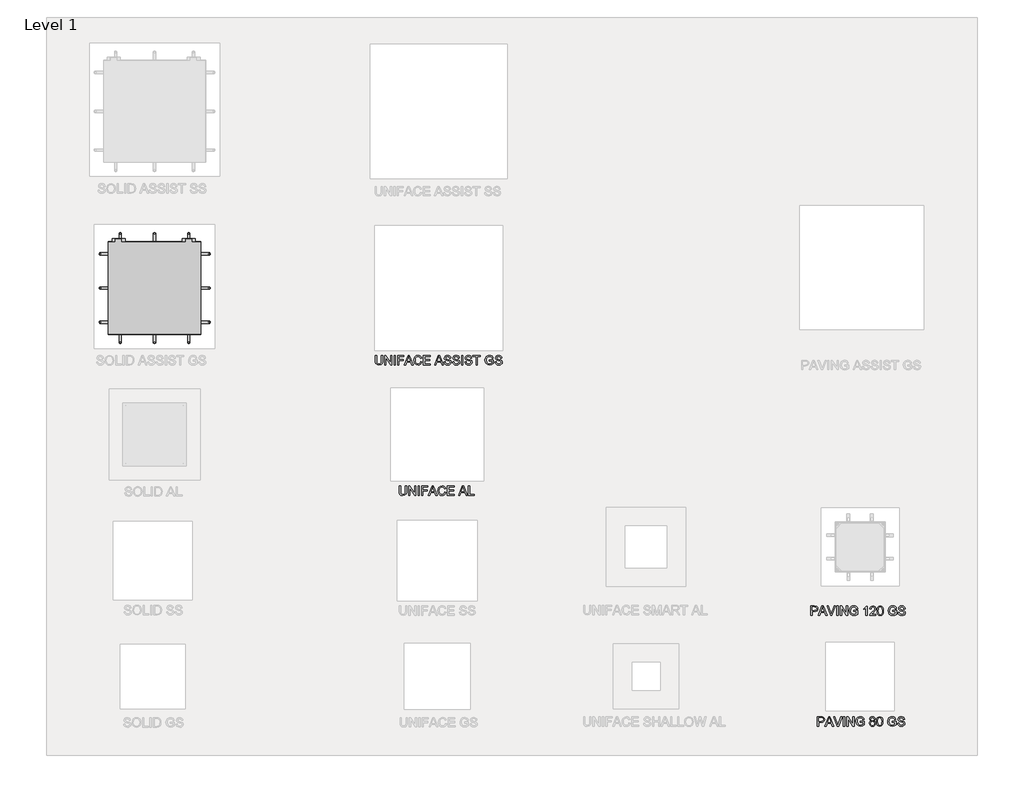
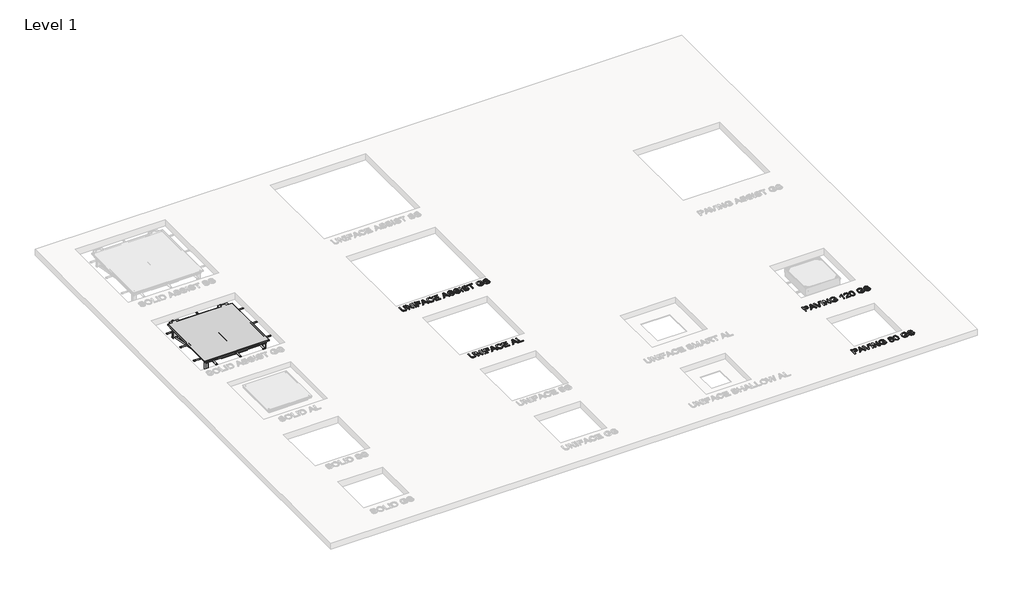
# One storey, part 3 of 4: 5 proxies.
"""IFC4 building model written with IfcOpenShell, lengths in millimetres."""

from ifc_helpers import new_model, si_unit, origin, origin_with_axes, place, context, project, spatial, polyline, outline, extrude, transform, mapped, element, save
from components import aco_access_cover_solid_assist_gs_aco_access_cover_solid_656c4046, aco_access_cover_solid_assist_gs_aco_access_cover_solid_a4386469

model = new_model("IFC4")

# Units and contexts
model_context = context("Model", 3, world=origin())
ifc_project = project(units=[si_unit("LENGTHUNIT", "METRE", prefix="MILLI")], contexts=[model_context])

# Site, building, storey
site = spatial("IfcSite", under=ifc_project)
building = spatial("IfcBuilding", under=site)
storey = spatial("IfcBuildingStorey", under=building, Name="Level 1", Elevation=0.0)

# Proxies
placement = place(None, origin())
element("IfcBuildingElementProxy", 1, Name="100mm ACO", ObjectType="100mm ACO", at=placement, inside=storey, context=model_context, shape_type="SweptSolid", body=[
    extrude(outline(polyline([(9018.2423209, -5172.6420187), (9055.8001913, -5172.6420187), (9071.1069043, -5173.5245419), (9083.0282006, -5178.1107687), (9091.3470663, -5188.1657456), (9094.1682469, -5201.4614632), (9091.9438545, -5213.8927421), (9085.2706774, -5223.5824122), (9073.6929864, -5229.8215615), (9056.7550524, -5231.901278), (9031.2052839, -5231.901278), (9031.2052839, -5272.6420187), (9018.2423209, -5272.6420187), (9018.2423209, -5172.6420187)]), holes=[polyline([(9031.2052839, -5220.7901669), (9057.2758857, -5220.7901669), (9075.2229344, -5216.0520303), (9079.7096965, -5210.1293596), (9081.2052839, -5201.8376206), (9078.0947515, -5190.8567178), (9070.4558626, -5184.9250048), (9056.9865339, -5183.7531298), (9031.2052839, -5183.7531298), (9031.2052839, -5220.7901669)])]), origin_with_axes(), (0.0, 0.0, 1.0), 10.0),
    extrude(outline(polyline([(9192.779358, -5272.6420187), (9178.9772746, -5272.6420187), (9166.998108, -5243.0123891), (9124.5501913, -5243.0123891), (9113.0339876, -5272.6420187), (9099.2608394, -5272.6420187), (9138.1207932, -5172.6420187), (9152.2990339, -5172.6420187), (9192.779358, -5272.6420187)]), holes=[polyline([(9162.4842191, -5231.901278), (9148.0600293, -5195.2403983), (9145.0941728, -5183.5795187), (9140.435608, -5202.1559076), (9128.8904691, -5231.901278), (9162.4842191, -5231.901278)])]), origin_with_axes(), (0.0, 0.0, 1.0), 10.0),
    extrude(outline(polyline([(9283.0571357, -5172.6420187), (9245.5571357, -5272.6420187), (9229.816395, -5272.6420187), (9192.316395, -5172.6420187), (9206.060608, -5172.6420187), (9232.4205617, -5245.3272039), (9237.6867654, -5261.6466483), (9242.9819043, -5245.3272039), (9269.3129228, -5172.6420187), (9283.0571357, -5172.6420187)])), origin_with_axes(), (0.0, 0.0, 1.0), 10.0),
    extrude(outline(polyline([(9310.8349135, -5272.6420187), (9297.8719506, -5272.6420187), (9297.8719506, -5172.6420187), (9310.8349135, -5172.6420187), (9310.8349135, -5272.6420187)])), origin_with_axes(), (0.0, 0.0, 1.0), 10.0),
    extrude(outline(polyline([(9412.6867654, -5272.6420187), (9398.7978765, -5272.6420187), (9348.1323672, -5194.401278), (9348.1323672, -5272.6420187), (9334.9089876, -5272.6420187), (9334.9089876, -5172.6420187), (9348.8268117, -5172.6420187), (9399.4633857, -5250.8248891), (9399.4633857, -5172.6420187), (9412.6867654, -5172.6420187), (9412.6867654, -5272.6420187)])), origin_with_axes(), (0.0, 0.0, 1.0), 10.0),
    extrude(outline(polyline([(9521.9460246, -5259.3028983), (9502.5377492, -5270.6961275), (9481.4078302, -5274.4938706), (9461.0266091, -5270.9782456), (9445.0218348, -5260.4313706), (9434.6594216, -5244.0540558), (9431.2052839, -5223.0471113), (9436.8331774, -5196.5424817), (9443.7957063, -5185.6556183), (9453.4275061, -5177.532065), (9465.6164529, -5172.4756414), (9480.2504228, -5170.7901669), (9495.086939, -5172.6637201), (9506.6682469, -5178.2843798), (9515.0015802, -5187.6449122), (9520.0941728, -5200.7380835), (9507.1312098, -5204.1235002), (9503.3732526, -5194.4193625), (9497.4813256, -5187.4713011), (9489.4554286, -5183.2937838), (9479.2955617, -5181.901278), (9464.0358684, -5184.7079909), (9453.0368811, -5193.1281298), (9446.3854054, -5206.0910928), (9444.1682469, -5222.526278), (9448.5519274, -5245.1391252), (9461.5582932, -5258.7675974), (9480.3082932, -5263.3827595), (9495.1737445, -5260.5760465), (9508.9830617, -5252.1559076), (9508.9830617, -5231.901278), (9479.353432, -5231.901278), (9479.353432, -5220.7901669), (9521.9460246, -5220.7901669), (9521.9460246, -5259.3028983)])), origin_with_axes(), (0.0, 0.0, 1.0), 10.0),
    extrude(outline(polyline([(9623.566395, -5217.7375048), (9637.628895, -5227.4090905), (9642.316395, -5243.8225743), (9639.9834957, -5255.8306761), (9632.9847978, -5265.6975743), (9622.3257989, -5272.2947965), (9609.0119969, -5274.4938706), (9595.6005385, -5272.2803289), (9584.9379228, -5265.6397039), (9577.9717769, -5255.657065), (9575.6497283, -5243.4174817), (9580.8291265, -5226.5916715), (9586.9055154, -5220.8154851), (9594.7758857, -5217.8677132), (9583.2090455, -5210.4096692), (9579.353432, -5197.844565), (9581.3861288, -5187.9668162), (9587.4842191, -5179.8613474), (9596.8736867, -5174.4468509), (9608.7805154, -5172.6420187), (9620.8645721, -5174.5047213), (9630.3806311, -5180.0928289), (9636.5546763, -5188.3212722), (9638.6126913, -5198.1049817), (9634.8511172, -5210.1709539), (9623.566395, -5217.7375048)]), holes=[polyline([(9609.040932, -5265.2346113), (9617.0053418, -5263.7661507), (9623.5374598, -5259.3607687), (9627.899439, -5252.604403), (9629.353432, -5244.0829909), (9627.8596531, -5235.5254099), (9623.3783163, -5228.6605372), (9616.7413082, -5224.1466483), (9608.7805154, -5222.6420187), (9600.6533452, -5224.193668), (9594.2116496, -5228.8486159), (9588.6126913, -5243.7936391), (9590.0558337, -5252.1703752), (9594.3852607, -5259.0714169), (9600.9354633, -5263.6938127), (9609.040932, -5265.2346113)]), polyline([(9609.0119969, -5213.3827595), (9620.8609552, -5208.9846113), (9625.6497283, -5197.9603058), (9620.7886172, -5186.5453752), (9608.8673209, -5181.901278), (9597.003895, -5186.4730372), (9592.316395, -5197.2658613), (9597.1341033, -5209.0424817), (9609.0119969, -5213.3827595)])]), origin_with_axes(), (0.0, 0.0, 1.0), 10.0),
    extrude(outline(polyline([(9686.7319043, -5172.6420187), (9701.3278967, -5175.828506), (9711.7536057, -5185.3879678), (9718.009031, -5201.3204041), (9720.0941728, -5223.625815), (9717.9385015, -5246.0976032), (9711.4714876, -5261.9504678), (9700.9752492, -5271.3580199), (9686.7319043, -5274.4938706), (9672.1612301, -5271.3146171), (9661.7536057, -5261.7768567), (9655.509031, -5245.8805893), (9653.4275061, -5223.625815), (9655.5831774, -5201.1576437), (9662.0501913, -5185.2577595), (9672.5319621, -5175.7959539), (9686.7319043, -5172.6420187)]), holes=[polyline([(9686.7608394, -5265.2346113), (9695.6005385, -5262.8004389), (9701.9807469, -5255.4979215), (9705.8435941, -5242.66155), (9707.1312098, -5223.625815), (9704.8742654, -5199.407065), (9698.0600293, -5186.2415558), (9686.6161635, -5181.901278), (9677.7945489, -5184.3788532), (9671.4685941, -5191.8115789), (9667.6600003, -5204.7202884), (9666.3904691, -5223.625815), (9668.6908163, -5247.6854215), (9675.5050524, -5260.8943335), (9686.7608394, -5265.2346113)])]), origin_with_axes(), (0.0, 0.0, 1.0), 10.0),
    extrude(outline(polyline([(9862.6867654, -5259.3028983), (9843.2784899, -5270.6961275), (9822.1485709, -5274.4938706), (9801.7673499, -5270.9782456), (9785.7625756, -5260.4313706), (9775.4001624, -5244.0540558), (9771.9460246, -5223.0471113), (9777.5739182, -5196.5424817), (9784.5364471, -5185.6556183), (9794.1682469, -5177.532065), (9806.3571936, -5172.4756414), (9820.9911635, -5170.7901669), (9835.8276797, -5172.6637201), (9847.4089876, -5178.2843798), (9855.7423209, -5187.6449122), (9860.8349135, -5200.7380835), (9847.8719506, -5204.1235002), (9844.1139934, -5194.4193625), (9838.2220663, -5187.4713011), (9830.1961693, -5183.2937838), (9820.0363024, -5181.901278), (9804.7766091, -5184.7079909), (9793.7776219, -5193.1281298), (9787.1261462, -5206.0910928), (9784.9089876, -5222.526278), (9789.2926682, -5245.1391252), (9802.2990339, -5258.7675974), (9821.0490339, -5263.3827595), (9835.9144853, -5260.5760465), (9849.7238024, -5252.1559076), (9849.7238024, -5231.901278), (9820.0941728, -5231.901278), (9820.0941728, -5220.7901669), (9862.6867654, -5220.7901669), (9862.6867654, -5259.3028983)])), origin_with_axes(), (0.0, 0.0, 1.0), 10.0),
    extrude(outline(polyline([(9940.4645432, -5202.2716483), (9938.4535478, -5193.3776958), (9933.9830617, -5187.0083382), (9917.6636172, -5181.901278), (9902.0386172, -5185.8798659), (9897.5247283, -5190.7662953), (9896.0200987, -5197.4684076), (9900.4905848, -5207.5233845), (9918.6763487, -5213.8167872), (9938.5114182, -5219.3000048), (9951.6624598, -5228.2265095), (9955.7640223, -5235.308396), (9957.1312098, -5244.4591483), (9954.6246994, -5256.297256), (9947.1051682, -5265.9435233), (9935.5564124, -5272.3562838), (9920.9622283, -5274.4938706), (9902.9790107, -5272.1211854), (9890.1751913, -5265.0031298), (9882.3626913, -5254.1090326), (9879.353432, -5240.4082224), (9892.316395, -5239.3086854), (9894.94588, -5250.1846981), (9901.1560941, -5257.6391252), (9909.9921763, -5261.9468509), (9920.4992654, -5263.3827595), (9937.628895, -5258.6518567), (9942.5334089, -5253.0782166), (9944.1682469, -5245.819102), (9942.4791554, -5238.4912664), (9937.4118811, -5233.463778), (9914.1335246, -5226.0129678), (9899.9227318, -5221.67269), (9890.3343348, -5215.7988474), (9884.8764355, -5208.1708092), (9883.0571357, -5198.5679446), (9885.3393985, -5187.5725743), (9892.1861867, -5178.6605372), (9902.96816, -5172.7577595), (9917.0559783, -5170.7901669), (9931.6176103, -5172.772227), (9943.0108394, -5178.7184076), (9950.51952, -5188.3104215), (9953.4275061, -5201.2299817), (9940.4645432, -5202.2716483)])), origin_with_axes(), (0.0, 0.0, 1.0), 10.0),
])
element("IfcBuildingElementProxy", 2, Name="100mm ACO", ObjectType="100mm ACO", at=placement, inside=storey, context=model_context, shape_type="SweptSolid", body=[
    extrude(outline(polyline([(8946.8484978, -3982.3905404), (8984.4063682, -3982.3905404), (8999.7130811, -3983.2730636), (9011.6343774, -3987.8592904), (9019.9532432, -3997.9142673), (9022.7744237, -4011.2099849), (9020.5500314, -4023.6412638), (9013.8768543, -4033.3309339), (9002.2991633, -4039.5700832), (8985.3612293, -4041.6497997), (8959.8114608, -4041.6497997), (8959.8114608, -4082.3905404), (8946.8484978, -4082.3905404), (8946.8484978, -3982.3905404)]), holes=[polyline([(8959.8114608, -4030.5386886), (8985.8820626, -4030.5386886), (9003.8291112, -4025.800552), (9008.3158734, -4019.8778813), (9009.8114608, -4011.5861423), (9006.7009284, -4000.6052395), (8999.0620395, -3994.6735265), (8985.5927108, -3993.5016515), (8959.8114608, -3993.5016515), (8959.8114608, -4030.5386886)])]), origin_with_axes(), (0.0, 0.0, 1.0), 10.0),
    extrude(outline(polyline([(9121.3855348, -4082.3905404), (9107.5834515, -4082.3905404), (9095.6042848, -4052.7609108), (9053.1563682, -4052.7609108), (9041.6401645, -4082.3905404), (9027.8670163, -4082.3905404), (9066.72697, -3982.3905404), (9080.9052108, -3982.3905404), (9121.3855348, -4082.3905404)]), holes=[polyline([(9091.090396, -4041.6497997), (9076.6662061, -4004.98892), (9073.7003497, -3993.3280404), (9069.0417848, -4011.9044293), (9057.496646, -4041.6497997), (9091.090396, -4041.6497997)])]), origin_with_axes(), (0.0, 0.0, 1.0), 10.0),
    extrude(outline(polyline([(9211.6633126, -3982.3905404), (9174.1633126, -4082.3905404), (9158.4225719, -4082.3905404), (9120.9225719, -3982.3905404), (9134.6667848, -3982.3905404), (9161.0267385, -4055.0757256), (9166.2929423, -4071.39517), (9171.5880811, -4055.0757256), (9197.9190997, -3982.3905404), (9211.6633126, -3982.3905404)])), origin_with_axes(), (0.0, 0.0, 1.0), 10.0),
    extrude(outline(polyline([(9239.4410904, -4082.3905404), (9226.4781274, -4082.3905404), (9226.4781274, -3982.3905404), (9239.4410904, -3982.3905404), (9239.4410904, -4082.3905404)])), origin_with_axes(), (0.0, 0.0, 1.0), 10.0),
    extrude(outline(polyline([(9341.2929423, -4082.3905404), (9327.4040534, -4082.3905404), (9276.7385441, -4004.1497997), (9276.7385441, -4082.3905404), (9263.5151645, -4082.3905404), (9263.5151645, -3982.3905404), (9277.4329885, -3982.3905404), (9328.0695626, -4060.5734108), (9328.0695626, -3982.3905404), (9341.2929423, -3982.3905404), (9341.2929423, -4082.3905404)])), origin_with_axes(), (0.0, 0.0, 1.0), 10.0),
    extrude(outline(polyline([(9450.5522015, -4069.05142), (9431.143926, -4080.4446492), (9410.0140071, -4084.2423923), (9389.632786, -4080.7267673), (9373.6280117, -4070.1798923), (9363.2655985, -4053.8025774), (9359.8114608, -4032.795633), (9365.4393543, -4006.2910034), (9372.4018832, -3995.4041399), (9382.033683, -3987.2805867), (9394.2226298, -3982.2241631), (9408.8565997, -3980.5386886), (9423.6931159, -3982.4122418), (9435.2744237, -3988.0329015), (9443.6077571, -3997.3934339), (9448.7003497, -4010.4866052), (9435.7373867, -4013.8720219), (9431.9794295, -4004.1678842), (9426.0875024, -3997.2198228), (9418.0616054, -3993.0423055), (9407.9017385, -3991.6497997), (9392.6420453, -3994.4565126), (9381.643058, -4002.8766515), (9374.9915823, -4015.8396145), (9372.7744237, -4032.2747997), (9377.1581043, -4054.8876469), (9390.16447, -4068.5161191), (9408.91447, -4073.1312812), (9423.7799214, -4070.3245682), (9437.5892385, -4061.9044293), (9437.5892385, -4041.6497997), (9407.9596089, -4041.6497997), (9407.9596089, -4030.5386886), (9450.5522015, -4030.5386886), (9450.5522015, -4069.05142)])), origin_with_axes(), (0.0, 0.0, 1.0), 10.0),
    extrude(outline(polyline([(9552.4040534, -4082.3905404), (9539.4410904, -4082.3905404), (9539.4410904, -4004.6127626), (9515.3670163, -4019.4275774), (9515.3670163, -4010.1683182), (9533.6395858, -3998.4495682), (9544.996646, -3984.2423923), (9552.4040534, -3984.2423923), (9552.4040534, -4082.3905404)])), origin_with_axes(), (0.0, 0.0, 1.0), 10.0),
    extrude(outline(polyline([(9646.8484978, -4082.3905404), (9580.1818311, -4082.3905404), (9586.1424793, -4066.7944756), (9608.1621552, -4045.1798923), (9625.9283589, -4027.8477163), (9631.8962409, -4018.8199386), (9633.8855348, -4009.7342904), (9628.4601876, -3996.7713274), (9614.7593774, -3991.6497997), (9600.7258126, -3996.7568599), (9596.4578728, -4003.1262175), (9594.996646, -4012.02017), (9582.033683, -4010.6312812), (9585.1731506, -3998.5291399), (9592.2188682, -3989.6532719), (9602.4329885, -3984.2062233), (9615.0776645, -3982.3905404), (9628.4348693, -3984.4774906), (9638.4717617, -3990.7383413), (9644.7543138, -3999.9505809), (9646.8484978, -4010.8916978), (9645.0979191, -4020.7947649), (9639.846183, -4030.8280404), (9612.4156274, -4058.3454015), (9596.8484978, -4073.1312812), (9646.8484978, -4073.1312812), (9646.8484978, -4082.3905404)])), origin_with_axes(), (0.0, 0.0, 1.0), 10.0),
    extrude(outline(polyline([(9693.1158589, -3982.3905404), (9707.7118514, -3985.5770277), (9718.1375603, -3995.1364895), (9724.3929857, -4011.0689258), (9726.4781274, -4033.3743367), (9724.3224561, -4055.8461249), (9717.8554423, -4071.6989895), (9707.3592038, -4081.1065416), (9693.1158589, -4084.2423923), (9678.5451847, -4081.0631388), (9668.1375603, -4071.5253784), (9661.8929857, -4055.629111), (9659.8114608, -4033.3743367), (9661.9671321, -4010.9061654), (9668.434146, -3995.0062812), (9678.9159168, -3985.5444756), (9693.1158589, -3982.3905404)]), holes=[polyline([(9693.1447941, -4074.983133), (9701.9844932, -4072.5489606), (9708.3647015, -4065.2464432), (9712.2275487, -4052.4100717), (9713.5151645, -4033.3743367), (9711.25822, -4009.1555867), (9704.4439839, -3995.9900774), (9693.0001182, -3991.6497997), (9684.1785036, -3994.1273749), (9677.8525487, -4001.5601006), (9674.043955, -4014.4688101), (9672.7744237, -4033.3743367), (9675.074771, -4057.4339432), (9681.8890071, -4070.6428552), (9693.1447941, -4074.983133)])]), origin_with_axes(), (0.0, 0.0, 1.0), 10.0),
    extrude(outline(polyline([(9869.07072, -4069.05142), (9849.6624446, -4080.4446492), (9828.5325256, -4084.2423923), (9808.1513045, -4080.7267673), (9792.1465302, -4070.1798923), (9781.784117, -4053.8025774), (9778.3299793, -4032.795633), (9783.9578728, -4006.2910034), (9790.9204017, -3995.4041399), (9800.5522015, -3987.2805867), (9812.7411483, -3982.2241631), (9827.3751182, -3980.5386886), (9842.2116344, -3982.4122418), (9853.7929423, -3988.0329015), (9862.1262756, -3997.3934339), (9867.2188682, -4010.4866052), (9854.2559052, -4013.8720219), (9850.497948, -4004.1678842), (9844.606021, -3997.2198228), (9836.580124, -3993.0423055), (9826.4202571, -3991.6497997), (9811.1605638, -3994.4565126), (9800.1615765, -4002.8766515), (9793.5101008, -4015.8396145), (9791.2929423, -4032.2747997), (9795.6766228, -4054.8876469), (9808.6829885, -4068.5161191), (9827.4329885, -4073.1312812), (9842.2984399, -4070.3245682), (9856.1077571, -4061.9044293), (9856.1077571, -4041.6497997), (9826.4781274, -4041.6497997), (9826.4781274, -4030.5386886), (9869.07072, -4030.5386886), (9869.07072, -4069.05142)])), origin_with_axes(), (0.0, 0.0, 1.0), 10.0),
    extrude(outline(polyline([(9946.8484978, -4012.02017), (9944.8375024, -4003.1262175), (9940.3670163, -3996.7568599), (9924.0475719, -3991.6497997), (9908.4225719, -3995.6283876), (9903.908683, -4000.514817), (9902.4040534, -4007.2169293), (9906.8745395, -4017.2719062), (9925.0603034, -4023.5653089), (9944.8953728, -4029.0485265), (9958.0464145, -4037.9750312), (9962.147977, -4045.0569177), (9963.5151645, -4054.20767), (9961.0086541, -4066.0457777), (9953.4891228, -4075.692045), (9941.940367, -4082.1048055), (9927.346183, -4084.2423923), (9909.3629654, -4081.8697071), (9896.559146, -4074.7516515), (9888.746646, -4063.8575543), (9885.7373867, -4050.1567441), (9898.7003497, -4049.0572071), (9901.3298346, -4059.9332198), (9907.5400487, -4067.3876469), (9916.3761309, -4071.6953726), (9926.88322, -4073.1312812), (9944.0128497, -4068.4003784), (9948.9173635, -4062.8267383), (9950.5522015, -4055.5676237), (9948.8631101, -4048.2397881), (9943.7958358, -4043.2122997), (9920.5174793, -4035.7614895), (9906.3066865, -4031.4212117), (9896.7182895, -4025.5473691), (9891.2603902, -4017.9193309), (9889.4410904, -4008.3164663), (9891.7233531, -3997.321096), (9898.5701413, -3988.4090589), (9909.3521147, -3982.5062812), (9923.439933, -3980.5386886), (9938.0015649, -3982.5207487), (9949.3947941, -3988.4669293), (9956.9034747, -3998.0589432), (9959.8114608, -4010.9785034), (9946.8484978, -4012.02017)])), origin_with_axes(), (0.0, 0.0, 1.0), 10.0),
])
element("IfcBuildingElementProxy", 3, Name="100mm ACO", ObjectType="100mm ACO", at=placement, inside=storey, context=model_context, shape_type="SweptSolid", body=[
    extrude(outline(polyline([(4604.5776008, -2751.0358464), (4603.7384804, -2765.3153603), (4599.2824619, -2778.7991566), (4587.5347767, -2790.3442955), (4565.862323, -2794.9594575), (4544.5370915, -2790.8651288), (4532.659198, -2780.274851), (4527.8414896, -2766.747652), (4526.799823, -2751.0358464), (4526.799823, -2693.1076057), (4539.7627859, -2693.1076057), (4539.7627859, -2751.3830686), (4541.0504017, -2767.0514714), (4547.8357026, -2778.7412862), (4554.8307836, -2782.5715814), (4564.8206563, -2783.8483464), (4582.2541054, -2779.7829529), (4589.8495915, -2768.9177909), (4591.6146378, -2751.3830686), (4591.6146378, -2693.1076057), (4604.5776008, -2693.1076057), (4604.5776008, -2751.0358464)])), origin_with_axes(), (0.0, 0.0, 1.0), 10.0),
    extrude(outline(polyline([(4704.5776008, -2793.1076057), (4690.6887119, -2793.1076057), (4640.0232026, -2714.8668649), (4640.0232026, -2793.1076057), (4626.799823, -2793.1076057), (4626.799823, -2693.1076057), (4640.7176471, -2693.1076057), (4691.3542211, -2771.290476), (4691.3542211, -2693.1076057), (4704.5776008, -2693.1076057), (4704.5776008, -2793.1076057)])), origin_with_axes(), (0.0, 0.0, 1.0), 10.0),
    extrude(outline(polyline([(4741.6146378, -2793.1076057), (4728.6516748, -2793.1076057), (4728.6516748, -2693.1076057), (4741.6146378, -2693.1076057), (4741.6146378, -2793.1076057)])), origin_with_axes(), (0.0, 0.0, 1.0), 10.0),
    extrude(outline(polyline([(4832.3553785, -2704.2187168), (4778.6516748, -2704.2187168), (4778.6516748, -2735.7001983), (4824.9479711, -2735.7001983), (4824.9479711, -2746.8113094), (4778.6516748, -2746.8113094), (4778.6516748, -2793.1076057), (4765.6887119, -2793.1076057), (4765.6887119, -2693.1076057), (4832.3553785, -2693.1076057), (4832.3553785, -2704.2187168)])), origin_with_axes(), (0.0, 0.0, 1.0), 10.0),
    extrude(outline(polyline([(4932.8183415, -2793.1076057), (4919.0162582, -2793.1076057), (4907.0370915, -2763.477976), (4864.5891748, -2763.477976), (4853.0729711, -2793.1076057), (4839.299823, -2793.1076057), (4878.1597767, -2693.1076057), (4892.3380174, -2693.1076057), (4932.8183415, -2793.1076057)]), holes=[polyline([(4902.5232026, -2752.3668649), (4888.0990128, -2715.7059853), (4885.1331563, -2704.0451057), (4880.4745915, -2722.6214946), (4868.9294526, -2752.3668649), (4902.5232026, -2752.3668649)])]), origin_with_axes(), (0.0, 0.0, 1.0), 10.0),
    extrude(outline(polyline([(5026.799823, -2761.278902), (5020.8861945, -2776.1045675), (5011.7679943, -2786.6116566), (4999.9805232, -2792.8725073), (4986.0590822, -2794.9594575), (4965.1534109, -2791.1038441), (4950.8160267, -2779.5370038), (4942.5260961, -2762.5448163), (4939.7627859, -2742.4131612), (4943.0071436, -2721.0264425), (4952.7402165, -2704.8408233), (4967.5731158, -2694.6520212), (4986.1169526, -2691.2557538), (4999.4307547, -2693.0678198), (5010.6684572, -2698.5040177), (5019.3381621, -2707.4341392), (5024.9479711, -2719.727976), (5011.9850082, -2722.7372353), (5002.1325776, -2707.4739251), (4985.6250545, -2702.3668649), (4971.4034109, -2705.0759217), (4961.0880174, -2713.2030918), (4954.816316, -2725.8875536), (4952.7257489, -2742.2684853), (4954.9392906, -2760.6314772), (4961.5799156, -2773.5908233), (4971.7795683, -2781.2839656), (4984.6701933, -2783.8483464), (4995.2387697, -2782.2315929), (5003.6227396, -2777.3813325), (5009.8221031, -2769.2830976), (5013.83686, -2757.9224205), (5026.799823, -2761.278902)])), origin_with_axes(), (0.0, 0.0, 1.0), 10.0),
    extrude(outline(polyline([(5117.5405637, -2793.1076057), (5043.4664896, -2793.1076057), (5043.4664896, -2693.1076057), (5115.6887119, -2693.1076057), (5115.6887119, -2704.2187168), (5056.4294526, -2704.2187168), (5056.4294526, -2735.7001983), (5111.9850082, -2735.7001983), (5111.9850082, -2746.8113094), (5056.4294526, -2746.8113094), (5056.4294526, -2781.9964946), (5117.5405637, -2781.9964946), (5117.5405637, -2793.1076057)])), origin_with_axes(), (0.0, 0.0, 1.0), 10.0),
    extrude(outline(polyline([(5256.8924156, -2793.1076057), (5243.0903322, -2793.1076057), (5231.1111656, -2763.477976), (5188.6632489, -2763.477976), (5177.1470452, -2793.1076057), (5163.3738971, -2793.1076057), (5202.2338508, -2693.1076057), (5216.4120915, -2693.1076057), (5256.8924156, -2793.1076057)]), holes=[polyline([(5226.5972767, -2752.3668649), (5212.1730869, -2715.7059853), (5209.2072304, -2704.0451057), (5204.5486656, -2722.6214946), (5193.0035267, -2752.3668649), (5226.5972767, -2752.3668649)])]), origin_with_axes(), (0.0, 0.0, 1.0), 10.0),
    extrude(outline(polyline([(5330.5035267, -2793.1076057), (5267.5405637, -2793.1076057), (5267.5405637, -2693.1076057), (5280.5035267, -2693.1076057), (5280.5035267, -2781.9964946), (5330.5035267, -2781.9964946), (5330.5035267, -2793.1076057)])), origin_with_axes(), (0.0, 0.0, 1.0), 10.0),
])
element("IfcBuildingElementProxy", 4, Name="100mm ACO", ObjectType="100mm ACO", at=placement, inside=storey, context=model_context, shape_type="SweptSolid", body=[
    extrude(outline(polyline([(4346.9353788, -1347.4010552), (4346.0962585, -1361.6805691), (4341.64024, -1375.1643653), (4329.8925548, -1386.7095042), (4308.2201011, -1391.3246663), (4286.8948696, -1387.2303376), (4275.0169761, -1376.6400598), (4270.1992677, -1363.1128607), (4269.1576011, -1347.4010552), (4269.1576011, -1289.4728144), (4282.120564, -1289.4728144), (4282.120564, -1347.7482774), (4283.4081798, -1363.4166802), (4290.1934807, -1375.106495), (4297.1885617, -1378.9367901), (4307.1784344, -1380.2135552), (4324.6118835, -1376.1481616), (4332.2073696, -1365.2829996), (4333.9724159, -1347.7482774), (4333.9724159, -1289.4728144), (4346.9353788, -1289.4728144), (4346.9353788, -1347.4010552)])), origin_with_axes(), (0.0, 0.0, 1.0), 10.0),
    extrude(outline(polyline([(4446.9353788, -1389.4728144), (4433.04649, -1389.4728144), (4382.3809807, -1311.2320737), (4382.3809807, -1389.4728144), (4369.1576011, -1389.4728144), (4369.1576011, -1289.4728144), (4383.0754251, -1289.4728144), (4433.7119992, -1367.6556848), (4433.7119992, -1289.4728144), (4446.9353788, -1289.4728144), (4446.9353788, -1389.4728144)])), origin_with_axes(), (0.0, 0.0, 1.0), 10.0),
    extrude(outline(polyline([(4483.9724159, -1389.4728144), (4471.0094529, -1389.4728144), (4471.0094529, -1289.4728144), (4483.9724159, -1289.4728144), (4483.9724159, -1389.4728144)])), origin_with_axes(), (0.0, 0.0, 1.0), 10.0),
    extrude(outline(polyline([(4574.7131566, -1300.5839255), (4521.0094529, -1300.5839255), (4521.0094529, -1332.065407), (4567.3057492, -1332.065407), (4567.3057492, -1343.1765181), (4521.0094529, -1343.1765181), (4521.0094529, -1389.4728144), (4508.04649, -1389.4728144), (4508.04649, -1289.4728144), (4574.7131566, -1289.4728144), (4574.7131566, -1300.5839255)])), origin_with_axes(), (0.0, 0.0, 1.0), 10.0),
    extrude(outline(polyline([(4675.1761196, -1389.4728144), (4661.3740363, -1389.4728144), (4649.3948696, -1359.8431848), (4606.9469529, -1359.8431848), (4595.4307492, -1389.4728144), (4581.6576011, -1389.4728144), (4620.5175548, -1289.4728144), (4634.6957955, -1289.4728144), (4675.1761196, -1389.4728144)]), holes=[polyline([(4644.8809807, -1348.7320737), (4630.4567909, -1312.0711941), (4627.4909344, -1300.4103144), (4622.8323696, -1318.9867033), (4611.2872307, -1348.7320737), (4644.8809807, -1348.7320737)])]), origin_with_axes(), (0.0, 0.0, 1.0), 10.0),
    extrude(outline(polyline([(4769.1576011, -1357.6441107), (4763.2439726, -1372.4697762), (4754.1257724, -1382.9768653), (4742.3383013, -1389.237716), (4728.4168603, -1391.3246663), (4707.511189, -1387.4690528), (4693.1738048, -1375.9022126), (4684.8838742, -1358.9100251), (4682.120564, -1338.77837), (4685.3649217, -1317.3916512), (4695.0979946, -1301.206032), (4709.9308939, -1291.0172299), (4728.4747307, -1287.6209626), (4741.7885328, -1289.4330285), (4753.0262353, -1294.8692265), (4761.6959402, -1303.799348), (4767.3057492, -1316.0931848), (4754.3427863, -1319.1024441), (4744.4903557, -1303.8391339), (4727.9828325, -1298.7320737), (4713.761189, -1301.4411304), (4703.4457955, -1309.5683005), (4697.1740941, -1322.2527623), (4695.083527, -1338.6336941), (4697.2970687, -1356.996686), (4703.9376937, -1369.956032), (4714.1373464, -1377.6491744), (4727.0279714, -1380.2135552), (4737.5965478, -1378.5968017), (4745.9805177, -1373.7465413), (4752.1798812, -1365.6483063), (4756.1946381, -1354.2876292), (4769.1576011, -1357.6441107)])), origin_with_axes(), (0.0, 0.0, 1.0), 10.0),
    extrude(outline(polyline([(4859.8983418, -1389.4728144), (4785.8242677, -1389.4728144), (4785.8242677, -1289.4728144), (4858.04649, -1289.4728144), (4858.04649, -1300.5839255), (4798.7872307, -1300.5839255), (4798.7872307, -1332.065407), (4854.3427863, -1332.065407), (4854.3427863, -1343.1765181), (4798.7872307, -1343.1765181), (4798.7872307, -1378.3617033), (4859.8983418, -1378.3617033), (4859.8983418, -1389.4728144)])), origin_with_axes(), (0.0, 0.0, 1.0), 10.0),
    extrude(outline(polyline([(4999.2501937, -1389.4728144), (4985.4481103, -1389.4728144), (4973.4689437, -1359.8431848), (4931.021027, -1359.8431848), (4919.5048233, -1389.4728144), (4905.7316751, -1389.4728144), (4944.5916288, -1289.4728144), (4958.7698696, -1289.4728144), (4999.2501937, -1389.4728144)]), holes=[polyline([(4968.9550548, -1348.7320737), (4954.530865, -1312.0711941), (4951.5650085, -1300.4103144), (4946.9064437, -1318.9867033), (4935.3613048, -1348.7320737), (4968.9550548, -1348.7320737)])]), origin_with_axes(), (0.0, 0.0, 1.0), 10.0),
    extrude(outline(polyline([(5067.3057492, -1319.1024441), (5065.2947538, -1310.2084915), (5060.8242677, -1303.8391339), (5044.5048233, -1298.7320737), (5028.8798233, -1302.7106616), (5024.3659344, -1307.597091), (5022.8613048, -1314.2992033), (5027.3317909, -1324.3541802), (5045.5175548, -1330.6475829), (5065.3526242, -1336.1308005), (5078.5036659, -1345.0573052), (5082.6052284, -1352.1391917), (5083.9724159, -1361.2899441), (5081.4659055, -1373.1280517), (5073.9463742, -1382.7743191), (5062.3976184, -1389.1870795), (5047.8034344, -1391.3246663), (5029.8202168, -1388.9519811), (5017.0163974, -1381.8339255), (5009.2038974, -1370.9398283), (5006.1946381, -1357.2390181), (5019.1576011, -1356.1394811), (5021.787086, -1367.0154938), (5027.9973001, -1374.4699209), (5036.8333823, -1378.7776466), (5047.3404714, -1380.2135552), (5064.4701011, -1375.4826524), (5069.374615, -1369.9090123), (5071.0094529, -1362.6498978), (5069.3203615, -1355.3220621), (5064.2530872, -1350.2945737), (5040.9747307, -1342.8437635), (5026.7639379, -1338.5034857), (5017.1755409, -1332.6296431), (5011.7176416, -1325.0016049), (5009.8983418, -1315.3987403), (5012.1806045, -1304.40337), (5019.0273927, -1295.4913329), (5029.8093661, -1289.5885552), (5043.8971844, -1287.6209626), (5058.4588163, -1289.6030228), (5069.8520455, -1295.5492033), (5077.3607261, -1305.1412172), (5080.2687122, -1318.0607774), (5067.3057492, -1319.1024441)])), origin_with_axes(), (0.0, 0.0, 1.0), 10.0),
    extrude(outline(polyline([(5159.8983418, -1319.1024441), (5157.8873464, -1310.2084915), (5153.4168603, -1303.8391339), (5137.0974159, -1298.7320737), (5121.4724159, -1302.7106616), (5116.958527, -1307.597091), (5115.4538974, -1314.2992033), (5119.9243835, -1324.3541802), (5138.1101474, -1330.6475829), (5157.9452168, -1336.1308005), (5171.0962585, -1345.0573052), (5175.197821, -1352.1391917), (5176.5650085, -1361.2899441), (5174.0584981, -1373.1280517), (5166.5389668, -1382.7743191), (5154.990211, -1389.1870795), (5140.396027, -1391.3246663), (5122.4128094, -1388.9519811), (5109.60899, -1381.8339255), (5101.79649, -1370.9398283), (5098.7872307, -1357.2390181), (5111.7501937, -1356.1394811), (5114.3796786, -1367.0154938), (5120.5898927, -1374.4699209), (5129.4259749, -1378.7776466), (5139.933064, -1380.2135552), (5157.0626937, -1375.4826524), (5161.9672075, -1369.9090123), (5163.6020455, -1362.6498978), (5161.9129541, -1355.3220621), (5156.8456798, -1350.2945737), (5133.5673233, -1342.8437635), (5119.3565305, -1338.5034857), (5109.7681335, -1332.6296431), (5104.3102342, -1325.0016049), (5102.4909344, -1315.3987403), (5104.7731971, -1304.40337), (5111.6199853, -1295.4913329), (5122.4019587, -1289.5885552), (5136.489777, -1287.6209626), (5151.0514089, -1289.6030228), (5162.4446381, -1295.5492033), (5169.9533187, -1305.1412172), (5172.8613048, -1318.0607774), (5159.8983418, -1319.1024441)])), origin_with_axes(), (0.0, 0.0, 1.0), 10.0),
    extrude(outline(polyline([(5209.8983418, -1389.4728144), (5196.9353788, -1389.4728144), (5196.9353788, -1289.4728144), (5209.8983418, -1289.4728144), (5209.8983418, -1389.4728144)])), origin_with_axes(), (0.0, 0.0, 1.0), 10.0),
    extrude(outline(polyline([(5291.3798233, -1319.1024441), (5289.3688279, -1310.2084915), (5284.8983418, -1303.8391339), (5268.5788974, -1298.7320737), (5252.9538974, -1302.7106616), (5248.4400085, -1307.597091), (5246.9353788, -1314.2992033), (5251.405865, -1324.3541802), (5269.5916288, -1330.6475829), (5289.4266983, -1336.1308005), (5302.57774, -1345.0573052), (5306.6793025, -1352.1391917), (5308.04649, -1361.2899441), (5305.5399795, -1373.1280517), (5298.0204483, -1382.7743191), (5286.4716925, -1389.1870795), (5271.8775085, -1391.3246663), (5253.8942909, -1388.9519811), (5241.0904714, -1381.8339255), (5233.2779714, -1370.9398283), (5230.2687122, -1357.2390181), (5243.2316751, -1356.1394811), (5245.8611601, -1367.0154938), (5252.0713742, -1374.4699209), (5260.9074564, -1378.7776466), (5271.4145455, -1380.2135552), (5288.5441751, -1375.4826524), (5293.448689, -1369.9090123), (5295.083527, -1362.6498978), (5293.3944356, -1355.3220621), (5288.3271613, -1350.2945737), (5265.0488048, -1342.8437635), (5250.8380119, -1338.5034857), (5241.249615, -1332.6296431), (5235.7917157, -1325.0016049), (5233.9724159, -1315.3987403), (5236.2546786, -1304.40337), (5243.1014668, -1295.4913329), (5253.8834402, -1289.5885552), (5267.9712585, -1287.6209626), (5282.5328904, -1289.6030228), (5293.9261196, -1295.5492033), (5301.4348001, -1305.1412172), (5304.3427863, -1318.0607774), (5291.3798233, -1319.1024441)])), origin_with_axes(), (0.0, 0.0, 1.0), 10.0),
    extrude(outline(polyline([(5396.9353788, -1300.5839255), (5363.6020455, -1300.5839255), (5363.6020455, -1389.4728144), (5350.6390825, -1389.4728144), (5350.6390825, -1300.5839255), (5317.3057492, -1300.5839255), (5317.3057492, -1289.4728144), (5396.9353788, -1289.4728144), (5396.9353788, -1300.5839255)])), origin_with_axes(), (0.0, 0.0, 1.0), 10.0),
    extrude(outline(polyline([(5537.6761196, -1376.1336941), (5518.2678441, -1387.5269232), (5497.1379251, -1391.3246663), (5476.7567041, -1387.8090413), (5460.7519298, -1377.2621663), (5450.3895166, -1360.8848515), (5446.9353788, -1339.877907), (5452.5632724, -1313.3732774), (5459.5258013, -1302.486414), (5469.1576011, -1294.3628607), (5481.3465478, -1289.3064371), (5495.9805177, -1287.6209626), (5510.8170339, -1289.4945158), (5522.3983418, -1295.1151755), (5530.7316751, -1304.4757079), (5535.8242677, -1317.5688792), (5522.8613048, -1320.9542959), (5519.1033476, -1311.2501582), (5513.2114205, -1304.3020968), (5505.1855235, -1300.1245795), (5495.0256566, -1298.7320737), (5479.7659633, -1301.5387866), (5468.7669761, -1309.9589255), (5462.1155004, -1322.9218885), (5459.8983418, -1339.3570737), (5464.2820224, -1361.9699209), (5477.2883881, -1375.5983931), (5496.0383881, -1380.2135552), (5510.9038395, -1377.4068422), (5524.7131566, -1368.9867033), (5524.7131566, -1348.7320737), (5495.083527, -1348.7320737), (5495.083527, -1337.6209626), (5537.6761196, -1337.6209626), (5537.6761196, -1376.1336941)])), origin_with_axes(), (0.0, 0.0, 1.0), 10.0),
    extrude(outline(polyline([(5615.4538974, -1319.1024441), (5613.442902, -1310.2084915), (5608.9724159, -1303.8391339), (5592.6529714, -1298.7320737), (5577.0279714, -1302.7106616), (5572.5140825, -1307.597091), (5571.0094529, -1314.2992033), (5575.479939, -1324.3541802), (5593.6657029, -1330.6475829), (5613.5007724, -1336.1308005), (5626.651814, -1345.0573052), (5630.7533765, -1352.1391917), (5632.120564, -1361.2899441), (5629.6140536, -1373.1280517), (5622.0945224, -1382.7743191), (5610.5457666, -1389.1870795), (5595.9515825, -1391.3246663), (5577.968365, -1388.9519811), (5565.1645455, -1381.8339255), (5557.3520455, -1370.9398283), (5554.3427863, -1357.2390181), (5567.3057492, -1356.1394811), (5569.9352342, -1367.0154938), (5576.1454483, -1374.4699209), (5584.9815305, -1378.7776466), (5595.4886196, -1380.2135552), (5612.6182492, -1375.4826524), (5617.5227631, -1369.9090123), (5619.1576011, -1362.6498978), (5617.4685096, -1355.3220621), (5612.4012353, -1350.2945737), (5589.1228788, -1342.8437635), (5574.912086, -1338.5034857), (5565.323689, -1332.6296431), (5559.8657897, -1325.0016049), (5558.04649, -1315.3987403), (5560.3287527, -1304.40337), (5567.1755409, -1295.4913329), (5577.9575143, -1289.5885552), (5592.0453325, -1287.6209626), (5606.6069645, -1289.6030228), (5618.0001937, -1295.5492033), (5625.5088742, -1305.1412172), (5628.4168603, -1318.0607774), (5615.4538974, -1319.1024441)])), origin_with_axes(), (0.0, 0.0, 1.0), 10.0),
])
aco_access_cover_solid_assist_gs_aco_access_cover_solid_shape = aco_access_cover_solid_assist_gs_aco_access_cover_solid_656c4046(model_context)
aco_access_cover_solid_assist_gs_aco_access_cover_solid_2_shape = aco_access_cover_solid_assist_gs_aco_access_cover_solid_a4386469(model_context)
element("IfcBuildingElementProxy", 5, Name="ACO Access Cover SOLID ASSIST GS : ACO Access Cover SOLID ASSIST 900 x 900 B125 GS", ObjectType="ACO Access Cover SOLID ASSIST GS : ACO Access Cover SOLID ASSIST 900 x 900 B125 GS", at=placement, inside=storey, context=model_context, shape_type="MappedRepresentation", body=[
    mapped(aco_access_cover_solid_assist_gs_aco_access_cover_solid_shape, transform((1896.977399, -564.3672718, 0.0), x_axis=(1.0, 0.0, 0.0), y_axis=(0.0, 1.0, 0.0), z_axis=(0.0, 0.0, 1.0))),
    mapped(aco_access_cover_solid_assist_gs_aco_access_cover_solid_2_shape, transform((1896.977399, -564.3672718, 0.0), x_axis=(1.0, 0.0, 0.0), y_axis=(0.0, 1.0, 0.0), z_axis=(0.0, 0.0, 1.0))),
])

save(model, "model.ifc")
